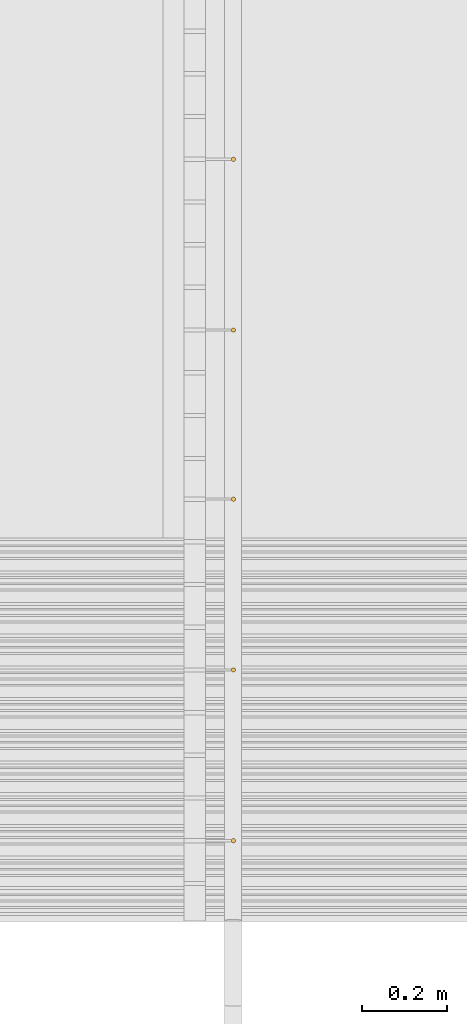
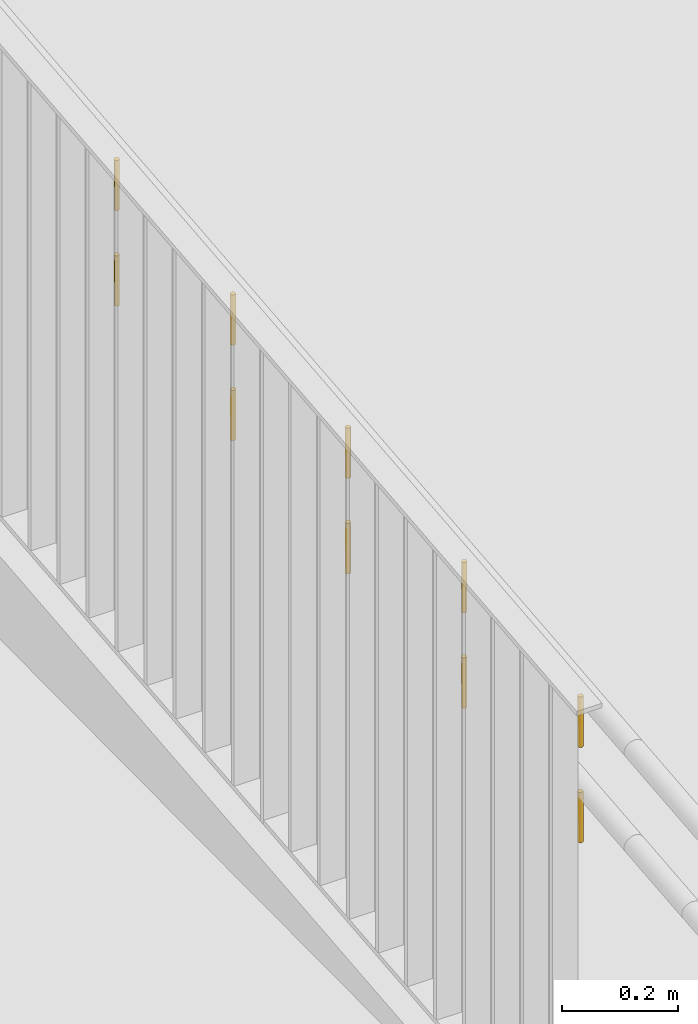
# One storey, part 156 of 418: 10 railings.
"""IFC2X3 building model written with IfcOpenShell, lengths in millimetres."""

from ifc_helpers import new_model, entity, si_unit, converted_unit, derived_unit, money_unit, direction, frame, origin_with_axes, origin_2d_with_axis, place, context, subcontext, project, spatial, circle, extrude, material, type_object, element, save


model = new_model("IFC2X3")

# Units and contexts
model_context = context("Model", 3, precision=0.01, world=origin_with_axes(), true_north=direction((0.0, 1.0)))
body_context = subcontext(model_context, "Body", "Model", "MODEL_VIEW")
ifc_project = project(units=[si_unit("LENGTHUNIT", "METRE", prefix="MILLI"), si_unit("AREAUNIT", "SQUARE_METRE"), si_unit("VOLUMEUNIT", "CUBIC_METRE"), converted_unit("PLANEANGLEUNIT", "DEGREE", entity("IfcPlaneAngleMeasure", 0.0174532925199), si_unit("PLANEANGLEUNIT", "RADIAN"), dimensions=[0, 0, 0, 0, 0, 0, 0]), si_unit("SOLIDANGLEUNIT", "STERADIAN"), money_unit("EUR"), converted_unit("TIMEUNIT", "Year", entity("IfcTimeMeasure", 31556926.0), si_unit("TIMEUNIT", "SECOND"), dimensions=[0, 0, 1, 0, 0, 0, 0]), si_unit("MASSUNIT", "GRAM", prefix="KILO"), si_unit("THERMODYNAMICTEMPERATUREUNIT", "DEGREE_CELSIUS"), si_unit("LUMINOUSINTENSITYUNIT", "LUMEN"), si_unit("ENERGYUNIT", "JOULE", prefix="MEGA"), derived_unit("THERMALCONDUCTANCEUNIT", [(si_unit("POWERUNIT", "WATT"), 1), (si_unit("LENGTHUNIT", "METRE"), -1), (si_unit("THERMODYNAMICTEMPERATUREUNIT", "KELVIN"), -1)]), derived_unit("SPECIFICHEATCAPACITYUNIT", [(si_unit("ENERGYUNIT", "JOULE"), 1), (si_unit("MASSUNIT", "GRAM", prefix="KILO"), -1), (si_unit("THERMODYNAMICTEMPERATUREUNIT", "KELVIN"), -1)]), derived_unit("MASSDENSITYUNIT", [(si_unit("MASSUNIT", "GRAM", prefix="KILO"), 1), (si_unit("VOLUMEUNIT", "CUBIC_METRE"), -1)])], contexts=[model_context])

# Site, building, storey
site_placement = place(None, origin_with_axes())
site = spatial("IfcSite", under=ifc_project, at=site_placement, Name="Paldiski mnt 245/1, Tallinn, Harjumaa", CompositionType="COMPLEX")
building_placement = place(site_placement, origin_with_axes())
building = spatial("IfcBuilding", under=site, at=building_placement, Name="RKAS Hoone üldnimetus (kasutust iseloomustav) -> IFC Project Manager -> SOLIBRI", CompositionType="ELEMENT")
storey_placement = place(building_placement, origin_with_axes())
storey = spatial("IfcBuildingStorey", under=building, at=storey_placement, Name="Esimene korrus", CompositionType="ELEMENT", Elevation=0.0)

# Railings
ifc_material = material(Name="ET-07_Teras - Roostevaba")
railing_type = type_object("IfcRailingType", Name="ET-07_Teras - Roostevaba D10", PredefinedType="NOTDEFINED")
for number, where, z_axis, x_axis in (
    (1, (-40745.9992191, -18117.0843011, 245.178401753), (0.0, 0.0, 1.0), (-1.0, 0.0, 0.0)),
    (2, (-40745.9992191, -16921.0843011, 565.200385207), (0.0, 0.0, 1.0), (-1.0, 0.0, 0.0)),
    (3, (-40745.9992191, -16921.0843011, 364.778485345), (0.0, 0.0, 1.0), (-1.0, 0.0, 0.0)),
    (4, (-40745.9992191, -17321.0843011, 525.200354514), (0.0, 0.0, 1.0), (-1.0, 0.0, 0.0)),
    (5, (-40745.9992191, -18117.0843011, 445.600301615), (0.0, 0.0, 1.0), (-1.0, 0.0, 0.0)),
    (6, (-40745.9992191, -17717.0843011, 285.178432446), (0.0, 0.0, 1.0), (-1.0, 0.0, 0.0)),
    (7, (-40745.9992191, -18517.0843011, 205.178379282), (0.0, 0.0, 1.0), (-1.0, 0.0, 0.0)),
    (8, (-40745.9992191, -17321.0843011, 324.778454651), (0.0, 0.0, 1.0), (-1.0, 0.0, 0.0)),
    (9, (-40745.9992191, -18517.0843011, 405.600279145), (0.0, 0.0, 1.0), (-1.0, 0.0, 0.0)),
    (10, (-40745.9992191, -17717.0843011, 485.600332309), (0.0, 0.0, 1.0), (-1.0, 0.0, 0.0)),
):
    element("IfcRailing", number, at=place(storey_placement, frame(where, z_axis=z_axis, x_axis=x_axis)), inside=storey, type_object=railing_type, material=ifc_material, Name="Trepipiire", PredefinedType="NOTDEFINED", context=body_context, shape_type="SweptSolid", body=[
        extrude(circle(Radius=5.0, at=origin_2d_with_axis()), frame((0.0, 0.0, 0.0), z_axis=(0.0, 0.0, -1.0), x_axis=(-1.0, 0.0, 0.0)), (0.0, 0.0, -1.0), 106.0),
    ])

save(model, "model.ifc")
